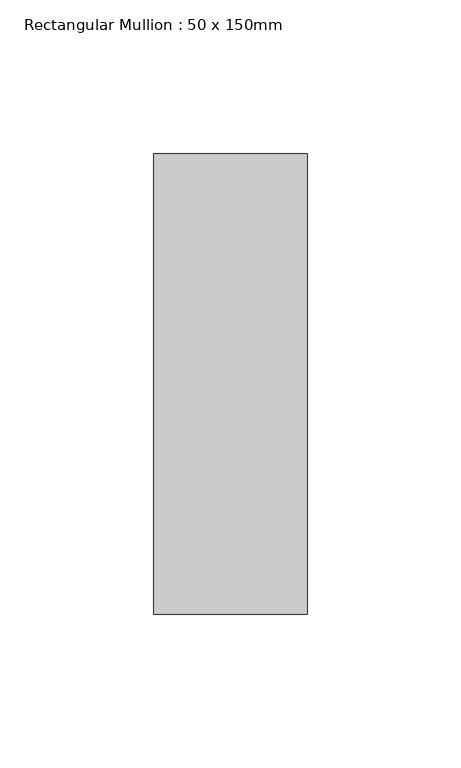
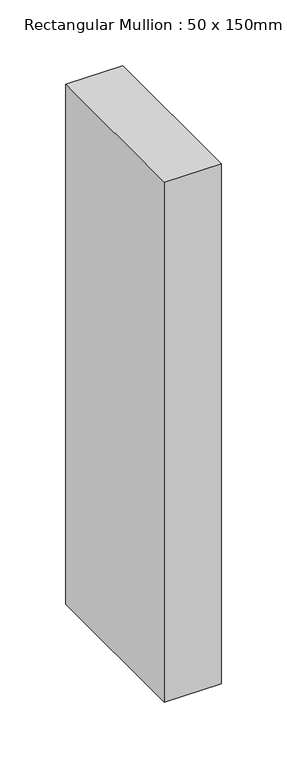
"""IFC4 building model written with IfcOpenShell, lengths in millimetres: member geometry, Rectangular Mullion : 50 x 150mm."""

from ifc_helpers import new_model, si_unit, frame, origin, place, context, project, spatial, polyline, outline, extrude, source, transform, mapped, element, save


def rectangular_mullion_50_x_150mm_158f91f9(model_context):
    return source(origin(), model_context, "Body", "SweptSolid", [
        extrude(outline(polyline([(25.0, 75.0), (25.0, -75.0), (-25.0, -75.0), (-25.0, 75.0), (25.0, 75.0)])), frame((0.0, 0.0, -483.3333334), z_axis=(0.0, 0.0, 1.0), x_axis=(1.0, 0.0, 0.0)), (0.0, 0.0, 1.0), 483.3333334),
    ])


if __name__ == "__main__":
    model = new_model("IFC4")
    model_context = context("Model", 3, world=origin())
    ifc_project = project(units=[si_unit("LENGTHUNIT", "METRE", prefix="MILLI")], contexts=[model_context])
    site = spatial("IfcSite", under=ifc_project)
    building = spatial("IfcBuilding", under=site)
    placement = place(None, origin())
    rectangular_mullion_50_x_150mm_shape = rectangular_mullion_50_x_150mm_158f91f9(model_context)
    element("IfcMember", 1, ObjectType="Rectangular Mullion : 50 x 150mm", at=placement, inside=building, context=model_context, shape_type="MappedRepresentation", body=[
        mapped(rectangular_mullion_50_x_150mm_shape, transform((0.0, 0.0, 0.0), x_axis=(1.0, 0.0, 0.0), y_axis=(0.0, 1.0, 0.0), z_axis=(0.0, 0.0, 1.0))),
    ])
    save(model, "model.ifc")
